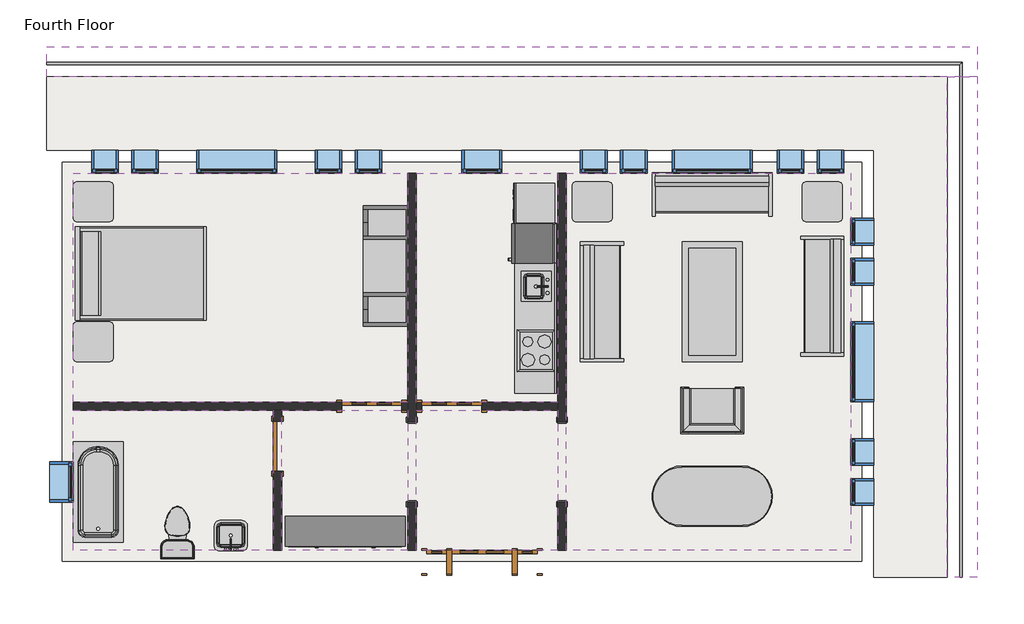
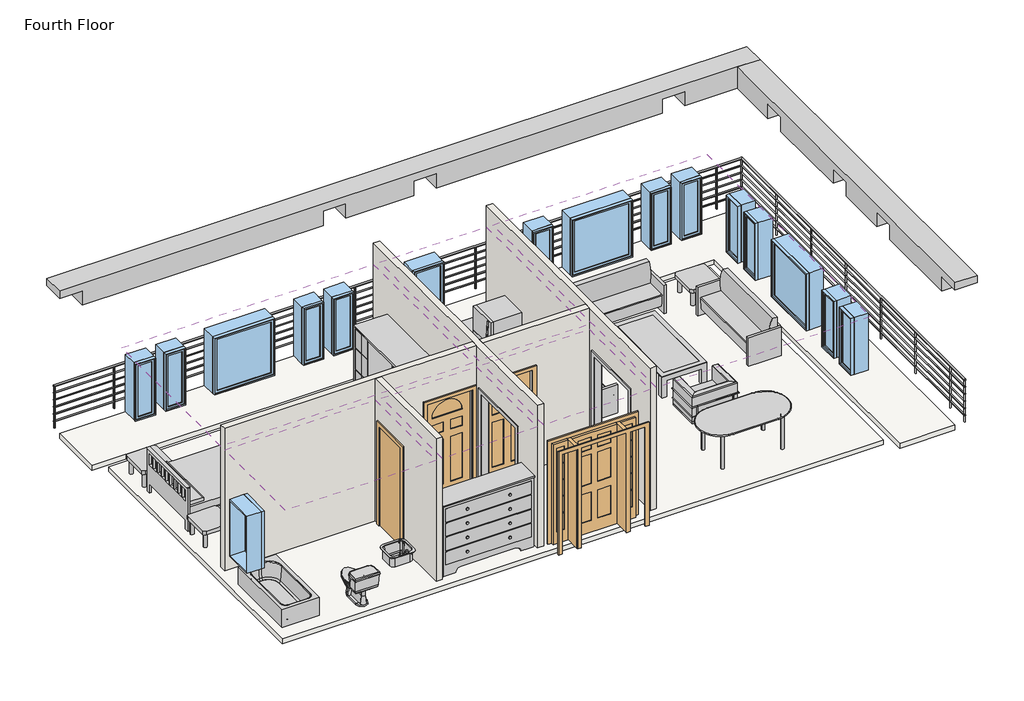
# One storey: 17 windows, 14 furniture elements, 6 coverings, 6 proxies, 5 walls, 4 doors, 4 flow terminals, 2 beams, 3 other elements.
"""IFC4 building model written with IfcOpenShell, lengths in millimetres."""

from ifc_helpers import new_model, si_unit, frame, origin, place, context, project, spatial, polyline, outline, extrude, faceted_brep, transform, mapped, element, save
from components import proxy_dfcd9396, proxy_3c49123c, proxy_7a545507, proxy_f44482cc, proxy_ec3341c2, door_829da954, door_2e3b4da2, door_4d6c7550, door_dba5aa2e, flow_terminal_41332a36, flow_terminal_62a433f7, toilet_domestic_3d_toilet_domestic_3d_f7549cf7, toilet_domestic_3d_toilet_domestic_3d_183bbd19, tub_rectangular_3d_tub_rectangular_3d_15036965, furniture_096e7f55, chair_corbu_chair_corbu_2764bdef, furniture_6db689a5, furniture_7c473f12, furniture_cf0b6580, furniture_a4ffab56, furniture_cd93a443, furniture_2c34a4f9, furniture_3a588284, handrail_pipe_d2b3d8b8, window_da97879f, window_d61ef850, window_60baf983, window_6eb97611

model = new_model("IFC4")

# Units and contexts
model_context = context("Model", 3, world=origin())
ifc_project = project(units=[si_unit("LENGTHUNIT", "METRE", prefix="MILLI")], contexts=[model_context])

# Site, building, storey
site = spatial("IfcSite", under=ifc_project)
building = spatial("IfcBuilding", under=site)
storey = spatial("IfcBuildingStorey", under=building, Name="Fourth Floor", Elevation=9144.0)

# Beams
placement = place(None, origin())
element("IfcBeam", 1, ObjectType="Concrete-Rectangular Beam : 18 x 18", at=placement, inside=storey, context=model_context, shape_type="Brep", body=[
    faceted_brep([(-11622.0589563, 11741.6316867, 12192.0), (-11622.0589563, 12198.8316867, 12192.0), (-11622.0589563, 12198.8316867, 12039.6), (-11622.0589563, 11741.6316867, 12039.6), (2093.9410437, 11741.6316867, 12192.0), (2551.1410437, 11741.6316867, 12192.0), (2551.1410437, 12198.8316867, 12192.0), (-11164.8589563, 11741.6316867, 12039.6), (-11164.8589563, 11741.6316867, 11734.8), (-6288.0589563, 11741.6316867, 11734.8), (-6288.0589563, 11741.6316867, 12039.6), (-5830.8589563, 11741.6316867, 12039.6), (-5830.8589563, 11741.6316867, 11734.8), (-4459.2589563, 11741.6316867, 11734.8), (-4459.2589563, 11741.6316867, 12039.6), (-4002.0589563, 11741.6316867, 12039.6), (-4002.0589563, 11741.6316867, 11734.8), (569.9410437, 11741.6316867, 11734.8), (569.9410437, 11741.6316867, 12039.6), (1027.1410437, 11741.6316867, 12039.6), (1027.1410437, 11741.6316867, 11734.8), (2093.9410437, 11741.6316867, 11734.8), (2093.9410437, 11741.6316867, 12039.6), (2551.1410437, 11741.6316867, 12039.6), (1027.1410437, 12198.8316867, 11734.8), (2093.9410437, 12198.8316867, 11734.8), (2551.1410437, 12198.8316867, 12039.6), (2093.9410437, 12198.8316867, 12039.6), (1027.1410437, 12198.8316867, 12039.6), (569.9410437, 12198.8316867, 12039.6), (569.9410437, 12198.8316867, 11734.8), (-4002.0589563, 12198.8316867, 11734.8), (-4002.0589563, 12198.8316867, 12039.6), (-4459.2589563, 12198.8316867, 12039.6), (-4459.2589563, 12198.8316867, 11734.8), (-5830.8589563, 12198.8316867, 11734.8), (-5830.8589563, 12198.8316867, 12039.6), (-6288.0589563, 12198.8316867, 12039.6), (-6288.0589563, 12198.8316867, 11734.8), (-11164.8589563, 12198.8316867, 11734.8), (-11164.8589563, 12198.8316867, 12039.6)], [[[0, 1, 2, 3]], [[1, 0, 4, 5, 6]], [[5, 4, 0, 3, 7, 8, 9, 10, 11, 12, 13, 14, 15, 16, 17, 18, 19, 20, 21, 22, 23]], [[20, 24, 25, 21]], [[1, 6, 26, 27, 25, 24, 28, 29, 30, 31, 32, 33, 34, 35, 36, 37, 38, 39, 40, 2]], [[6, 5, 23, 26]], [[19, 28, 24, 20]], [[29, 18, 17, 30]], [[28, 19, 18, 29]], [[30, 17, 16, 31]], [[27, 22, 21, 25]], [[22, 27, 26, 23]], [[15, 32, 31, 16]], [[33, 14, 13, 34]], [[32, 15, 14, 33]], [[34, 13, 12, 35]], [[11, 36, 35, 12]], [[37, 10, 9, 38]], [[36, 11, 10, 37]], [[38, 9, 8, 39]], [[7, 40, 39, 8]], [[40, 7, 3, 2]]]),
])
element("IfcBeam", 2, ObjectType="Concrete-Rectangular Beam : 18 x 18", at=placement, inside=storey, context=model_context, shape_type="Brep", body=[
    faceted_brep([(2551.1410437, 4121.6316867, 12192.0), (2093.9410437, 4121.6316867, 12192.0), (2093.9410437, 4121.6316867, 12039.6), (2551.1410437, 4121.6316867, 12039.6), (2551.1410437, 11741.6316867, 12192.0), (2093.9410437, 11741.6316867, 12192.0), (2093.9410437, 11741.6316867, 12039.6), (2093.9410437, 11741.6316867, 11734.8), (2093.9410437, 10674.8316867, 11734.8), (2093.9410437, 10674.8316867, 12039.6), (2093.9410437, 10217.6316867, 12039.6), (2093.9410437, 10217.6316867, 11734.8), (2093.9410437, 8388.8316867, 11734.8), (2093.9410437, 8388.8316867, 12039.6), (2093.9410437, 7931.6316867, 12039.6), (2093.9410437, 7931.6316867, 11734.8), (2093.9410437, 6864.8316867, 11734.8), (2093.9410437, 6864.8316867, 12039.6), (2093.9410437, 6407.6316867, 12039.6), (2093.9410437, 6407.6316867, 11734.8), (2093.9410437, 4578.8316867, 11734.8), (2093.9410437, 4578.8316867, 12039.6), (2551.1410437, 6407.6316867, 11734.8), (2551.1410437, 4578.8316867, 11734.8), (2551.1410437, 4578.8316867, 12039.6), (2551.1410437, 6407.6316867, 12039.6), (2551.1410437, 6864.8316867, 12039.6), (2551.1410437, 6864.8316867, 11734.8), (2551.1410437, 7931.6316867, 11734.8), (2551.1410437, 7931.6316867, 12039.6), (2551.1410437, 8388.8316867, 12039.6), (2551.1410437, 8388.8316867, 11734.8), (2551.1410437, 10217.6316867, 11734.8), (2551.1410437, 10217.6316867, 12039.6), (2551.1410437, 10674.8316867, 12039.6), (2551.1410437, 10674.8316867, 11734.8), (2551.1410437, 11741.6316867, 11734.8), (2551.1410437, 11741.6316867, 12039.6)], [[[0, 1, 2, 3]], [[1, 0, 4, 5]], [[5, 6, 7, 8, 9, 10, 11, 12, 13, 14, 15, 16, 17, 18, 19, 20, 21, 2, 1]], [[19, 22, 23, 20]], [[4, 0, 3, 24, 23, 22, 25, 26, 27, 28, 29, 30, 31, 32, 33, 34, 35, 36, 37]], [[5, 4, 37, 36, 7, 6]], [[10, 33, 32, 11]], [[34, 9, 8, 35]], [[33, 10, 9, 34]], [[7, 36, 35, 8]], [[14, 29, 28, 15]], [[30, 13, 12, 31]], [[29, 14, 13, 30]], [[11, 32, 31, 12]], [[18, 25, 22, 19]], [[26, 17, 16, 27]], [[25, 18, 17, 26]], [[15, 28, 27, 16]], [[24, 21, 20, 23]], [[21, 24, 3, 2]]]),
])

# Proxies
proxy_shape = proxy_dfcd9396(model_context)
element("IfcBuildingElementProxy", 3, Name="Cook Top-4 Unit2 : 22\" x 20\"", ObjectType="Cook Top-4 Unit2 : 22\" x 20\"", at=placement, inside=storey, context=model_context, shape_type="MappedRepresentation", body=[
    mapped(proxy_shape, transform((-4167.1589563, 7568.5224391, 9144.0), x_axis=(0.0, 1.0000000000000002, 0.0), y_axis=(-1.0000000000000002, 0.0, 0.0), z_axis=(0.0, 0.0, 1.0))),
])
proxy_2_shape = proxy_3c49123c(model_context)
element("IfcBuildingElementProxy", 4, Name="Dishwasher : 24\" x 24\" x 34\"", ObjectType="Dishwasher : 24\" x 24\" x 34\"", at=placement, inside=storey, context=model_context, shape_type="MappedRepresentation", body=[
    mapped(proxy_2_shape, transform((-4459.0085211, 9434.1049706, 9144.0), x_axis=(0.0, 1.0000000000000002, 0.0), y_axis=(-1.0000000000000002, 0.0, 0.0), z_axis=(0.0, 0.0, 1.0))),
])
proxy_3_shape = proxy_7a545507(model_context)
element("IfcBuildingElementProxy", 5, Name="Kitchenette - Medium : 8'6\"", ObjectType="Kitchenette - Medium : 8'6\"", at=placement, inside=storey, context=model_context, shape_type="MappedRepresentation", body=[
    mapped(proxy_3_shape, transform((-3862.3589563, 8197.4847342, 9144.0), x_axis=(0.0, 1.0000000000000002, 0.0), y_axis=(-1.0000000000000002, 0.0, 0.0), z_axis=(0.0, 0.0, 1.0))),
])
proxy_4_shape = proxy_f44482cc(model_context)
element("IfcBuildingElementProxy", 6, Name="Opening-Cased : 48\" x 84\"", ObjectType="Opening-Cased : 48\" x 84\"", at=placement, inside=storey, context=model_context, shape_type="MappedRepresentation", body=[
    mapped(proxy_4_shape, transform((-3773.4589563, 5882.4203434, 9144.0), x_axis=(0.0, 1.0, 0.0), y_axis=(-1.0, 0.0, 0.0), z_axis=(0.0, 0.0, 1.0))),
])
element("IfcBuildingElementProxy", 7, Name="Opening-Cased : 48\" x 84\"", ObjectType="Opening-Cased : 48\" x 84\"", at=placement, inside=storey, context=model_context, shape_type="MappedRepresentation", body=[
    mapped(proxy_4_shape, transform((-6059.4589563, 5866.04303, 9144.0), x_axis=(0.0, -1.0, 0.0), y_axis=(1.0, 0.0, 0.0), z_axis=(0.0, 0.0, 1.0))),
])
proxy_5_shape = proxy_ec3341c2(model_context)
element("IfcBuildingElementProxy", 8, Name="Refrigerator : 24\" x 25\" LH", ObjectType="Refrigerator : 24\" x 25\" LH", at=placement, inside=storey, context=model_context, shape_type="MappedRepresentation", body=[
    mapped(proxy_5_shape, transform((-4212.8079278, 9200.4724391, 9144.0), x_axis=(0.0, 1.0000000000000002, 0.0), y_axis=(-1.0000000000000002, 0.0, 0.0), z_axis=(0.0, 0.0, 1.0))),
])

# Coverings
element("IfcCovering", 9, ObjectType="GWB on Mtl. Stud", at=placement, inside=storey, context=model_context, shape_type="SweptSolid", body=[
    extrude(outline(polyline([(-11217.2464563, 10270.0191867), (-6122.9589563, 10270.0191867), (-6122.9589563, 6787.0441867), (-11217.2464563, 6787.0441867), (-11217.2464563, 10270.0191867)])), frame((0.0, 0.0, 11734.8), z_axis=(0.0, 0.0, 1.0), x_axis=(1.0, 0.0, 0.0)), (0.0, 0.0, 1.0), 107.95),
])
element("IfcCovering", 10, ObjectType="GWB on Mtl. Stud", at=placement, inside=storey, context=model_context, shape_type="SweptSolid", body=[
    extrude(outline(polyline([(-5995.9589563, 6787.0441867), (-5995.9589563, 10270.0191867), (-3836.9589563, 10270.0191867), (-3836.9589563, 6787.0441867), (-5995.9589563, 6787.0441867)])), frame((0.0, 0.0, 11734.8), z_axis=(0.0, 0.0, 1.0), x_axis=(1.0, 0.0, 0.0)), (0.0, 0.0, 1.0), 107.95),
])
element("IfcCovering", 11, ObjectType="GWB on Mtl. Stud", at=placement, inside=storey, context=model_context, shape_type="SweptSolid", body=[
    extrude(outline(polyline([(-3709.9589563, 4526.4441867), (-3709.9589563, 10270.0191867), (622.3285437, 10270.0191867), (622.3285437, 4526.4441867), (-3709.9589563, 4526.4441867)])), frame((0.0, 0.0, 11734.8), z_axis=(0.0, 0.0, 1.0), x_axis=(1.0, 0.0, 0.0)), (0.0, 0.0, 1.0), 107.95),
])
element("IfcCovering", 12, ObjectType="GWB on Mtl. Stud", at=placement, inside=storey, context=model_context, shape_type="SweptSolid", body=[
    extrude(outline(polyline([(-3836.9589563, 4526.4441867), (-5995.9589563, 4526.4441867), (-5995.9589563, 6660.0441867), (-3836.9589563, 6660.0441867), (-3836.9589563, 4526.4441867)])), frame((0.0, 0.0, 11734.8), z_axis=(0.0, 0.0, 1.0), x_axis=(1.0, 0.0, 0.0)), (0.0, 0.0, 1.0), 107.95),
])
element("IfcCovering", 13, ObjectType="GWB on Mtl. Stud", at=placement, inside=storey, context=model_context, shape_type="SweptSolid", body=[
    extrude(outline(polyline([(-8169.2464563, 6660.0441867), (-8169.2464563, 4526.4441867), (-11217.2464563, 4526.4441867), (-11217.2464563, 6660.0441867), (-8169.2464563, 6660.0441867)])), frame((0.0, 0.0, 11734.8), z_axis=(0.0, 0.0, 1.0), x_axis=(1.0, 0.0, 0.0)), (0.0, 0.0, 1.0), 107.95),
])
element("IfcCovering", 14, ObjectType="GWB on Mtl. Stud", at=placement, inside=storey, context=model_context, shape_type="SweptSolid", body=[
    extrude(outline(polyline([(-6122.9589563, 4526.4441867), (-8042.2464563, 4526.4441867), (-8042.2464563, 6660.0441867), (-6122.9589563, 6660.0441867), (-6122.9589563, 4526.4441867)])), frame((0.0, 0.0, 11734.8), z_axis=(0.0, 0.0, 1.0), x_axis=(1.0, 0.0, 0.0)), (0.0, 0.0, 1.0), 107.95),
])

# Doors
door_shape = door_829da954(model_context)
element("IfcDoor", 15, ObjectType="Single-Decorative 2 : 36\" x 84\"", at=placement, inside=storey, context=model_context, shape_type="MappedRepresentation", body=[
    mapped(door_shape, transform((-5449.8589563, 6723.5441867, 9144.0), x_axis=(-1.0, 0.0, 0.0), y_axis=(0.0, -1.0, 0.0), z_axis=(0.0, 0.0, 1.0))),
])
door_2_shape = door_2e3b4da2(model_context)
element("IfcDoor", 16, ObjectType="Single-Decorative 2 : 36\" x 84\"", at=placement, inside=storey, context=model_context, shape_type="MappedRepresentation", body=[
    mapped(door_2_shape, transform((-6669.0589563, 6723.5441867, 9144.0), x_axis=(1.0, 0.0, 0.0), y_axis=(0.0, 1.0, 0.0), z_axis=(0.0, 0.0, 1.0))),
])
door_3_shape = door_4d6c7550(model_context)
element("IfcDoor", 17, ObjectType="Single-Flush : 30\" x 84\"", at=placement, inside=storey, context=model_context, shape_type="MappedRepresentation", body=[
    mapped(door_3_shape, transform((-8105.7464563, 6113.9441867, 9144.0), x_axis=(0.0, 1.0, 0.0), y_axis=(-1.0, 0.0, 0.0), z_axis=(0.0, 0.0, 1.0))),
])
door_4_shape = door_dba5aa2e(model_context)
element("IfcDoor", 18, ObjectType="Single-Raised Panel with Sidelights : 36\" x 84\"", at=placement, inside=storey, context=model_context, shape_type="MappedRepresentation", body=[
    mapped(door_4_shape, transform((-4992.6589563, 4350.2316867, 9144.0), x_axis=(-1.0, 0.0, 0.0), y_axis=(0.0, -1.0, 0.0), z_axis=(0.0, 0.0, 1.0))),
])

# Flow terminals
flow_terminal_shape = flow_terminal_41332a36(model_context)
element("IfcFlowTerminal", 19, ObjectType="Sink Kitchen-Island : 18\" x 18\"", at=placement, inside=storey, context=model_context, shape_type="MappedRepresentation", body=[
    mapped(flow_terminal_shape, transform((-4169.5043574, 8530.7331986, 9129.6), x_axis=(0.0, 1.0000000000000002, 0.0), y_axis=(-1.0000000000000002, 0.0, 0.0), z_axis=(0.0, 0.0, 1.0))),
])
flow_terminal_2_shape = flow_terminal_62a433f7(model_context)
element("IfcFlowTerminal", 20, ObjectType="Sink Vanity-Square : 20\" x 18\"", at=placement, inside=storey, context=model_context, shape_type="MappedRepresentation", body=[
    mapped(flow_terminal_2_shape, transform((-8801.2572158, 4706.5895878, 9144.0), x_axis=(-1.0, 0.0, 0.0), y_axis=(0.0, -1.0, 0.0), z_axis=(0.0, 0.0, 1.0))),
])
toilet_domestic_3d_toilet_domestic_3d_shape = toilet_domestic_3d_toilet_domestic_3d_f7549cf7(model_context)
toilet_domestic_3d_toilet_domestic_3d_2_shape = toilet_domestic_3d_toilet_domestic_3d_183bbd19(model_context)
element("IfcFlowTerminal", 21, ObjectType="Toilet-Domestic-3D : Toilet-Domestic-3D", at=placement, inside=storey, context=model_context, shape_type="MappedRepresentation", body=[
    mapped(toilet_domestic_3d_toilet_domestic_3d_shape, transform((-9629.7464563, 4894.7441867, 9144.0), x_axis=(-1.0, 0.0, 0.0), y_axis=(0.0, -1.0, 0.0), z_axis=(0.0, 0.0, 1.0))),
    mapped(toilet_domestic_3d_toilet_domestic_3d_2_shape, transform((-9629.7464563, 4894.7441867, 9144.0), x_axis=(-1.0, 0.0, 0.0), y_axis=(0.0, -1.0, 0.0), z_axis=(0.0, 0.0, 1.0))),
])
tub_rectangular_3d_tub_rectangular_3d_shape = tub_rectangular_3d_tub_rectangular_3d_15036965(model_context)
element("IfcFlowTerminal", 22, ObjectType="Tub-Rectangular-3D : Tub-Rectangular-3D", at=placement, inside=storey, context=model_context, shape_type="MappedRepresentation", body=[
    mapped(tub_rectangular_3d_tub_rectangular_3d_shape, transform((-11393.4589563, 5765.6346554, 9144.0), x_axis=(0.0, 1.0, 0.0), y_axis=(-1.0, 0.0, 0.0), z_axis=(0.0, 0.0, 1.0))),
])

# Furniture
furniture_shape = furniture_096e7f55(model_context)
element("IfcFurniture", 23, ObjectType="Bed-Shaker : Double 56\" x 78\"", at=placement, inside=storey, context=model_context, shape_type="MappedRepresentation", body=[
    mapped(furniture_shape, transform((-11172.0857802, 8763.4816867, 9144.0), x_axis=(0.0, 1.0, 0.0), y_axis=(-1.0, 0.0, 0.0), z_axis=(0.0, 0.0, 1.0))),
])
chair_corbu_chair_corbu_shape = chair_corbu_chair_corbu_2764bdef(model_context)
element("IfcFurniture", 24, ObjectType="Chair-Corbu : Chair-Corbu", at=placement, inside=storey, context=model_context, shape_type="MappedRepresentation", body=[
    mapped(chair_corbu_chair_corbu_shape, transform((-914.0851858, 7126.8212359, 9144.0), x_axis=(-1.0, 0.0, 0.0), y_axis=(0.0, -1.0, 0.0), z_axis=(0.0, 0.0, 1.0))),
])
furniture_2_shape = furniture_6db689a5(model_context)
element("IfcFurniture", 25, ObjectType="Counter Top w Sink Hole : 24\" Depth", at=placement, inside=storey, context=model_context, shape_type="MappedRepresentation", body=[
    mapped(furniture_2_shape, transform((-3862.3589563, 8121.2847342, 9129.6), x_axis=(0.0, 1.0000000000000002, 0.0), y_axis=(-1.0000000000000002, 0.0, 0.0), z_axis=(0.0, 0.0, 1.0))),
])
furniture_3_shape = furniture_7c473f12(model_context)
element("IfcFurniture", 26, ObjectType="Dresser : 72\" x 60\" x 18\"", at=placement, inside=storey, context=model_context, shape_type="MappedRepresentation", body=[
    mapped(furniture_3_shape, transform((-6806.2656965, 5181.7071408, 9144.0), x_axis=(1.0, 0.0, 0.0), y_axis=(0.0, 1.0, 0.0), z_axis=(0.0, 0.0, 1.0))),
])
furniture_4_shape = furniture_cf0b6580(model_context)
element("IfcFurniture", 27, ObjectType="Entertainment Center : 72\" x 72\" x 24\"", at=placement, inside=storey, context=model_context, shape_type="MappedRepresentation", body=[
    mapped(furniture_4_shape, transform((-6021.3589563, 8857.1441867, 9144.0), x_axis=(0.0, -1.0, 0.0), y_axis=(1.0, 0.0, 0.0), z_axis=(0.0, 0.0, 1.0))),
])
furniture_5_shape = furniture_a4ffab56(model_context)
element("IfcFurniture", 28, ObjectType="Sofa : 72\"", at=placement, inside=storey, context=model_context, shape_type="MappedRepresentation", body=[
    mapped(furniture_5_shape, transform((-3017.704858, 8242.2611949, 9144.0), x_axis=(0.0, 1.0, 0.0), y_axis=(-1.0, 0.0, 0.0), z_axis=(0.0, 0.0, 1.0))),
])
element("IfcFurniture", 29, ObjectType="Sofa : 72\"", at=placement, inside=storey, context=model_context, shape_type="MappedRepresentation", body=[
    mapped(furniture_5_shape, transform((-1557.8294481, 9801.5748071, 9144.0), x_axis=(1.0, 0.0, 0.0), y_axis=(0.0, 1.0, 0.0), z_axis=(0.0, 0.0, 1.0))),
])
element("IfcFurniture", 30, ObjectType="Sofa : 72\"", at=placement, inside=storey, context=model_context, shape_type="MappedRepresentation", body=[
    mapped(furniture_5_shape, transform((42.7869453, 8470.3146785, 9144.0), x_axis=(0.0, -1.0, 0.0), y_axis=(1.0, 0.0, 0.0), z_axis=(0.0, 0.0, 1.0))),
])
furniture_6_shape = furniture_cd93a443(model_context)
element("IfcFurniture", 31, ObjectType="Table-Coffee : 36\" x 72\" x 18\"", at=placement, inside=storey, context=model_context, shape_type="MappedRepresentation", body=[
    mapped(furniture_6_shape, transform((-1392.2478785, 8294.36592, 9144.0), x_axis=(0.0, 1.0, 0.0), y_axis=(-1.0, 0.0, 0.0), z_axis=(0.0, 0.0, 1.0))),
])
furniture_7_shape = furniture_2c34a4f9(model_context)
element("IfcFurniture", 32, ObjectType="Table-Dining Oval : 36\" x 72\"", at=placement, inside=storey, context=model_context, shape_type="MappedRepresentation", body=[
    mapped(furniture_7_shape, transform((-1085.6392842, 5710.0425473, 9144.0), x_axis=(1.0, 0.0, 0.0), y_axis=(0.0, 1.0, 0.0), z_axis=(0.0, 0.0, 1.0))),
])
furniture_8_shape = furniture_3a588284(model_context)
element("IfcFurniture", 33, ObjectType="Table-End : 24\" x 24\"", at=placement, inside=storey, context=model_context, shape_type="MappedRepresentation", body=[
    mapped(furniture_8_shape, transform((-119.5925866, 9684.2316867, 9144.0), x_axis=(1.0, 0.0, 0.0), y_axis=(0.0, 1.0, 0.0), z_axis=(0.0, 0.0, 1.0))),
])
element("IfcFurniture", 34, ObjectType="Table-End : 24\" x 24\"", at=placement, inside=storey, context=model_context, shape_type="MappedRepresentation", body=[
    mapped(furniture_8_shape, transform((-11220.9800866, 7550.6316867, 9144.0), x_axis=(1.0, 0.0, 0.0), y_axis=(0.0, 1.0, 0.0), z_axis=(0.0, 0.0, 1.0))),
])
element("IfcFurniture", 35, ObjectType="Table-End : 24\" x 24\"", at=placement, inside=storey, context=model_context, shape_type="MappedRepresentation", body=[
    mapped(furniture_8_shape, transform((-11220.9800866, 9684.2316867, 9144.0), x_axis=(1.0, 0.0, 0.0), y_axis=(0.0, 1.0, 0.0), z_axis=(0.0, 0.0, 1.0))),
])
element("IfcFurniture", 36, ObjectType="Table-End : 24\" x 24\"", at=placement, inside=storey, context=model_context, shape_type="MappedRepresentation", body=[
    mapped(furniture_8_shape, transform((-3624.7925866, 9684.2316867, 9144.0), x_axis=(1.0, 0.0, 0.0), y_axis=(0.0, 1.0, 0.0), z_axis=(0.0, 0.0, 1.0))),
])

# Railing
handrail_pipe_shape = handrail_pipe_d2b3d8b8(model_context)
element("IfcRailing", 37, ObjectType="Handrail - Pipe", at=placement, inside=storey, context=model_context, shape_type="MappedRepresentation", body=[
    mapped(handrail_pipe_shape, transform((0.0, 0.0, 0.0), x_axis=(1.0, 0.0, 0.0), y_axis=(0.0, 1.0, 0.0), z_axis=(0.0, 0.0, 1.0))),
])

# Slabs
element("IfcSlab", 38, ObjectType="LW Concrete on Metal Deck", at=placement, inside=storey, context=model_context, shape_type="SweptSolid", body=[
    extrude(outline(polyline([(787.4285437, 10435.1191867), (787.4285437, 4361.3441867), (-11382.3464563, 4361.3441867), (-11382.3464563, 10435.1191867), (787.4285437, 10435.1191867)])), frame((0.0, 0.0, 9039.225), z_axis=(0.0, 0.0, 1.0), x_axis=(1.0, 0.0, 0.0)), (0.0, 0.0, 1.0), 104.775),
])
element("IfcSlab", 39, ObjectType="LW Concrete on Metal Deck", at=placement, inside=storey, context=model_context, shape_type="SweptSolid", body=[
    extrude(outline(polyline([(-11622.0589563, 10622.4441867), (-11622.0589563, 11741.6316867), (2093.9410437, 11741.6316867), (2093.9410437, 4121.6316867), (974.7535437, 4121.6316867), (974.7535437, 10622.4441867), (-11622.0589563, 10622.4441867)])), frame((0.0, 0.0, 9039.225), z_axis=(0.0, 0.0, 1.0), x_axis=(1.0, 0.0, 0.0)), (0.0, 0.0, 1.0), 104.775),
])

# Walls
element("IfcWall", 40, ObjectType="Interior - 5\" Partition (2-hr)", at=placement, inside=storey, context=model_context, shape_type="Brep", body=[
    faceted_brep([(-3709.9589563, 10270.0191867, 9144.0), (-3709.9589563, 6483.8316867, 9144.0), (-3836.9589563, 6483.8316867, 9144.0), (-3836.9589563, 6660.0441867, 9144.0), (-3836.9589563, 6787.0441867, 9144.0), (-3836.9589563, 10270.0191867, 9144.0), (-3709.9589563, 5264.6316867, 9144.0), (-3709.9589563, 4526.4441867, 9144.0), (-3836.9589563, 4526.4441867, 9144.0), (-3836.9589563, 5264.6316867, 9144.0), (-3836.9589563, 10270.0191867, 12192.0), (-3836.9589563, 6787.0441867, 12192.0), (-3836.9589563, 6660.0441867, 12192.0), (-3836.9589563, 4526.4441867, 12192.0), (-3709.9589563, 4526.4441867, 12192.0), (-3709.9589563, 10270.0191867, 12192.0), (-3836.9589563, 6483.8316867, 11277.6), (-3836.9589563, 5264.6316867, 11277.6), (-3709.9589563, 6483.8316867, 11277.6), (-3709.9589563, 5264.6316867, 11277.6)], [[[0, 1, 2, 3, 4, 5]], [[6, 7, 8, 9]], [[10, 11, 12, 13, 14, 15]], [[5, 4, 3, 2, 16, 17, 9, 8, 13, 12, 11, 10]], [[18, 1, 0, 15, 14, 7, 6, 19]], [[5, 10, 15, 0]], [[13, 8, 7, 14]], [[9, 17, 19, 6]], [[16, 2, 1, 18]], [[17, 16, 18, 19]]]),
])
element("IfcWall", 41, ObjectType="Interior - 5\" Partition (2-hr)", at=placement, inside=storey, context=model_context, shape_type="Brep", body=[
    faceted_brep([(-6122.9589563, 4526.4441867, 9144.0), (-6122.9589563, 5264.6316867, 9144.0), (-5995.9589563, 5264.6316867, 9144.0), (-5995.9589563, 4526.4441867, 9144.0), (-6122.9589563, 6483.8316867, 9144.0), (-6122.9589563, 6660.0441867, 9144.0), (-6122.9589563, 6787.0441867, 9144.0), (-6122.9589563, 10270.0191867, 9144.0), (-5995.9589563, 10270.0191867, 9144.0), (-5995.9589563, 6787.0441867, 9144.0), (-5995.9589563, 6660.0441867, 9144.0), (-5995.9589563, 6483.8316867, 9144.0), (-6122.9589563, 10270.0191867, 12192.0), (-6122.9589563, 6787.0441867, 12192.0), (-6122.9589563, 6660.0441867, 12192.0), (-6122.9589563, 4526.4441867, 12192.0), (-5995.9589563, 4526.4441867, 12192.0), (-5995.9589563, 6660.0441867, 12192.0), (-5995.9589563, 6787.0441867, 12192.0), (-5995.9589563, 10270.0191867, 12192.0), (-6122.9589563, 5264.6316867, 11277.6), (-6122.9589563, 6483.8316867, 11277.6), (-5995.9589563, 5264.6316867, 11277.6), (-5995.9589563, 6483.8316867, 11277.6)], [[[0, 1, 2, 3]], [[4, 5, 6, 7, 8, 9, 10, 11]], [[12, 13, 14, 15, 16, 17, 18, 19]], [[20, 1, 0, 15, 14, 13, 12, 7, 6, 5, 4, 21]], [[3, 2, 22, 23, 11, 10, 9, 8, 19, 18, 17, 16]], [[7, 12, 19, 8]], [[15, 0, 3, 16]], [[11, 23, 21, 4]], [[22, 2, 1, 20]], [[23, 22, 20, 21]]]),
])
element("IfcWall", 42, ObjectType="Interior - 5\" Partition (2-hr)", at=placement, inside=storey, context=model_context, shape_type="Brep", body=[
    faceted_brep([(-6122.9589563, 6660.0441867, 9144.0), (-6211.8589563, 6660.0441867, 9144.0), (-6211.8589563, 6787.0441867, 9144.0), (-6122.9589563, 6787.0441867, 9144.0), (-7126.2589563, 6660.0441867, 9144.0), (-8042.2464563, 6660.0441867, 9144.0), (-8169.2464563, 6660.0441867, 9144.0), (-11217.2464563, 6660.0441867, 9144.0), (-11217.2464563, 6787.0441867, 9144.0), (-7126.2589563, 6787.0441867, 9144.0), (-11217.2464563, 6660.0441867, 12192.0), (-8169.2464563, 6660.0441867, 12192.0), (-8042.2464563, 6660.0441867, 12192.0), (-6122.9589563, 6660.0441867, 12192.0), (-6122.9589563, 6787.0441867, 12192.0), (-11217.2464563, 6787.0441867, 12192.0), (-6211.8589563, 6660.0441867, 11277.6), (-7126.2589563, 6660.0441867, 11277.6), (-6211.8589563, 6787.0441867, 11277.6), (-7126.2589563, 6787.0441867, 11277.6)], [[[0, 1, 2, 3]], [[4, 5, 6, 7, 8, 9]], [[10, 11, 12, 13, 14, 15]], [[16, 1, 0, 13, 12, 11, 10, 7, 6, 5, 4, 17]], [[3, 2, 18, 19, 9, 8, 15, 14]], [[13, 0, 3, 14]], [[7, 10, 15, 8]], [[18, 2, 1, 16]], [[19, 18, 16, 17]], [[9, 19, 17, 4]]]),
])
element("IfcWall", 43, ObjectType="Interior - 5\" Partition (2-hr)", at=placement, inside=storey, context=model_context, shape_type="SweptSolid", body=[
    extrude(outline(polyline([(6660.0441867, 9144.0), (6494.9441867, 9144.0), (6494.9441867, 11277.6), (5732.9441867, 11277.6), (5732.9441867, 9144.0), (4526.4441867, 9144.0), (4526.4441867, 12192.0), (6660.0441867, 12192.0), (6660.0441867, 9144.0)])), frame((-8169.2464563, 0.0, 0.0), z_axis=(1.0, 0.0, 0.0), x_axis=(0.0, 1.0, 0.0)), (0.0, 0.0, 1.0), 127.0),
])
element("IfcWall", 44, ObjectType="Interior - 5\" Partition (2-hr)", at=placement, inside=storey, context=model_context, shape_type="SweptSolid", body=[
    extrude(outline(polyline([(9144.0, -5995.9589563), (9144.0, -5907.0589563), (11277.6, -5907.0589563), (11277.6, -4992.6589563), (9144.0, -4992.6589563), (9144.0, -3836.9589563), (12192.0, -3836.9589563), (12192.0, -5995.9589563), (9144.0, -5995.9589563)])), frame((0.0, 6660.0441867, 0.0), z_axis=(0.0, 1.0, 0.0), x_axis=(0.0, 0.0, 1.0)), (0.0, 0.0, 1.0), 127.0),
])

# Windows
window_shape = window_da97879f(model_context)
element("IfcWindow", 45, ObjectType="Fixed : 16\" x 48\"", at=placement, inside=storey, context=model_context, shape_type="MappedRepresentation", body=[
    mapped(window_shape, transform((-10771.1589563, 10446.2316867, 9144.0), x_axis=(-1.0, 0.0, 0.0), y_axis=(0.0, -1.0, 0.0), z_axis=(0.0, 0.0, 1.0))),
])
element("IfcWindow", 46, ObjectType="Fixed : 16\" x 48\"", at=placement, inside=storey, context=model_context, shape_type="MappedRepresentation", body=[
    mapped(window_shape, transform((-10161.5589563, 10446.2316867, 9144.0), x_axis=(-1.0, 0.0, 0.0), y_axis=(0.0, -1.0, 0.0), z_axis=(0.0, 0.0, 1.0))),
])
element("IfcWindow", 47, ObjectType="Fixed : 16\" x 48\"", at=placement, inside=storey, context=model_context, shape_type="MappedRepresentation", body=[
    mapped(window_shape, transform((-3328.9589563, 10446.2316867, 9144.0), x_axis=(-1.0, 0.0, 0.0), y_axis=(0.0, -1.0, 0.0), z_axis=(0.0, 0.0, 1.0))),
])
element("IfcWindow", 48, ObjectType="Fixed : 16\" x 48\"", at=placement, inside=storey, context=model_context, shape_type="MappedRepresentation", body=[
    mapped(window_shape, transform((-2719.3589563, 10446.2316867, 9144.0), x_axis=(-1.0, 0.0, 0.0), y_axis=(0.0, -1.0, 0.0), z_axis=(0.0, 0.0, 1.0))),
])
element("IfcWindow", 49, ObjectType="Fixed : 16\" x 48\"", at=placement, inside=storey, context=model_context, shape_type="MappedRepresentation", body=[
    mapped(window_shape, transform((798.5410437, 9417.5316867, 9144.0), x_axis=(0.0, 1.0, 0.0), y_axis=(-1.0, 0.0, 0.0), z_axis=(0.0, 0.0, 1.0))),
])
element("IfcWindow", 50, ObjectType="Fixed : 16\" x 48\"", at=placement, inside=storey, context=model_context, shape_type="MappedRepresentation", body=[
    mapped(window_shape, transform((798.5410437, 8807.9316867, 9144.0), x_axis=(0.0, 1.0, 0.0), y_axis=(-1.0, 0.0, 0.0), z_axis=(0.0, 0.0, 1.0))),
])
window_2_shape = window_d61ef850(model_context)
element("IfcWindow", 51, ObjectType="Fixed : 16\" x 48\"", at=placement, inside=storey, context=model_context, shape_type="MappedRepresentation", body=[
    mapped(window_2_shape, transform((-6681.7589563, 10446.2316867, 9144.0), x_axis=(1.0, 0.0, 0.0), y_axis=(0.0, 1.0, 0.0), z_axis=(0.0, 0.0, 1.0))),
])
element("IfcWindow", 52, ObjectType="Fixed : 16\" x 48\"", at=placement, inside=storey, context=model_context, shape_type="MappedRepresentation", body=[
    mapped(window_2_shape, transform((-7291.3589563, 10446.2316867, 9144.0), x_axis=(1.0, 0.0, 0.0), y_axis=(0.0, 1.0, 0.0), z_axis=(0.0, 0.0, 1.0))),
])
element("IfcWindow", 53, ObjectType="Fixed : 16\" x 48\"", at=placement, inside=storey, context=model_context, shape_type="MappedRepresentation", body=[
    mapped(window_2_shape, transform((354.0410437, 10446.2316867, 9144.0), x_axis=(1.0, 0.0, 0.0), y_axis=(0.0, 1.0, 0.0), z_axis=(0.0, 0.0, 1.0))),
])
element("IfcWindow", 54, ObjectType="Fixed : 16\" x 48\"", at=placement, inside=storey, context=model_context, shape_type="MappedRepresentation", body=[
    mapped(window_2_shape, transform((-255.5589563, 10446.2316867, 9144.0), x_axis=(1.0, 0.0, 0.0), y_axis=(0.0, 1.0, 0.0), z_axis=(0.0, 0.0, 1.0))),
])
element("IfcWindow", 55, ObjectType="Fixed : 16\" x 48\"", at=placement, inside=storey, context=model_context, shape_type="MappedRepresentation", body=[
    mapped(window_2_shape, transform((798.5410437, 5378.9316867, 9144.0), x_axis=(0.0, -1.0, 0.0), y_axis=(1.0, 0.0, 0.0), z_axis=(0.0, 0.0, 1.0))),
])
element("IfcWindow", 56, ObjectType="Fixed : 16\" x 48\"", at=placement, inside=storey, context=model_context, shape_type="MappedRepresentation", body=[
    mapped(window_2_shape, transform((798.5410437, 5988.5316867, 9144.0), x_axis=(0.0, -1.0, 0.0), y_axis=(1.0, 0.0, 0.0), z_axis=(0.0, 0.0, 1.0))),
])
window_3_shape = window_60baf983(model_context)
element("IfcWindow", 57, ObjectType="Fixed : 24\" x 48\"", at=placement, inside=storey, context=model_context, shape_type="MappedRepresentation", body=[
    mapped(window_3_shape, transform((-5030.7589563, 10446.2316867, 9144.0), x_axis=(-1.0, 0.0, 0.0), y_axis=(0.0, -1.0, 0.0), z_axis=(0.0, 0.0, 1.0))),
])
element("IfcWindow", 58, ObjectType="Fixed : 24\" x 48\"", at=placement, inside=storey, context=model_context, shape_type="MappedRepresentation", body=[
    mapped(window_3_shape, transform((-11393.4589563, 5531.3316867, 9144.0), x_axis=(0.0, -1.0, 0.0), y_axis=(1.0, 0.0, 0.0), z_axis=(0.0, 0.0, 1.0))),
])
window_4_shape = window_6eb97611(model_context)
element("IfcWindow", 59, ObjectType="Fixed : 48\" x 48\"", at=placement, inside=storey, context=model_context, shape_type="MappedRepresentation", body=[
    mapped(window_4_shape, transform((-8764.5589563, 10446.2316867, 9144.0), x_axis=(-1.0, 0.0, 0.0), y_axis=(0.0, -1.0, 0.0), z_axis=(0.0, 0.0, 1.0))),
])
element("IfcWindow", 60, ObjectType="Fixed : 48\" x 48\"", at=placement, inside=storey, context=model_context, shape_type="MappedRepresentation", body=[
    mapped(window_4_shape, transform((-1525.5589563, 10446.2316867, 9144.0), x_axis=(-1.0, 0.0, 0.0), y_axis=(0.0, -1.0, 0.0), z_axis=(0.0, 0.0, 1.0))),
])
element("IfcWindow", 61, ObjectType="Fixed : 48\" x 48\"", at=placement, inside=storey, context=model_context, shape_type="MappedRepresentation", body=[
    mapped(window_4_shape, transform((798.5410437, 7436.3316867, 9144.0), x_axis=(0.0, 1.0, 0.0), y_axis=(-1.0, 0.0, 0.0), z_axis=(0.0, 0.0, 1.0))),
])

save(model, "model.ifc")
